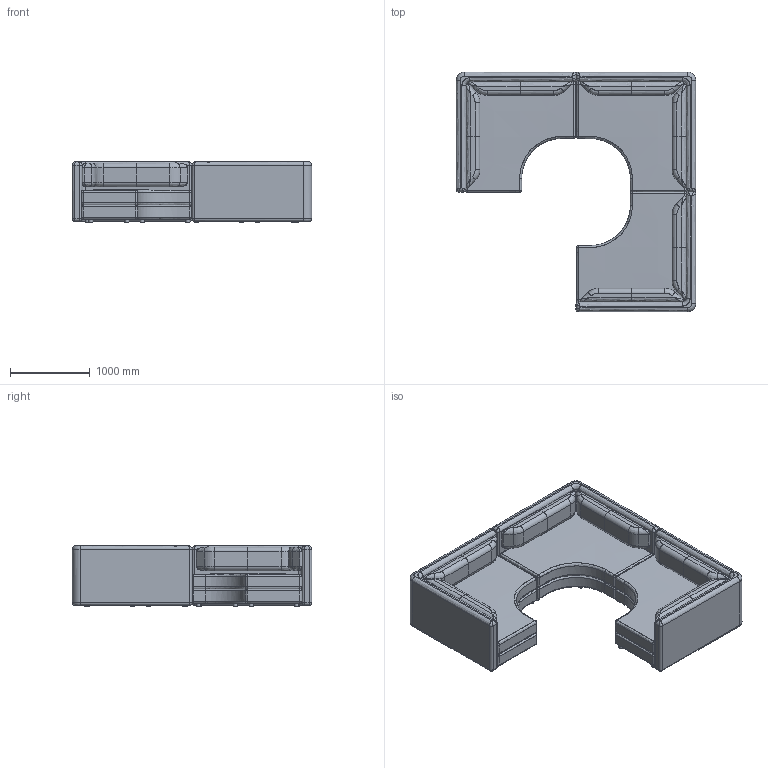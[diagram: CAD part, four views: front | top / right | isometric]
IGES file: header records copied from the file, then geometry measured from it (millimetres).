
Global section: file name: C:\Users\market02\Desktop\RYAN\VIRGULE\compo8\COMPO8.igs; native system: Rhinoceros ( Dec 14 2021 ); preprocessor: Trout Lake IGES 012 Dec 14 2021; date: 220919.082318; units: millimetre
Bounding box: 3000 x 2999.99 x 766 mm (x, y, z)
Surface area: 44393139 mm2 (no closed solid volume)
Topology: 0 solids, 0 shells, 582 faces, 4302 edges, 4248 vertices
Faces by surface type: bspline 582
